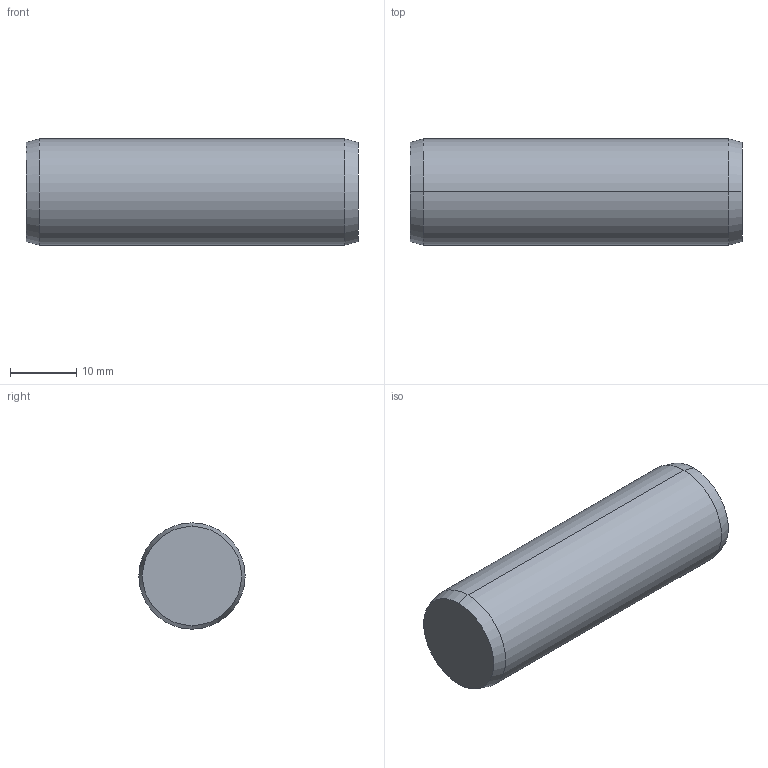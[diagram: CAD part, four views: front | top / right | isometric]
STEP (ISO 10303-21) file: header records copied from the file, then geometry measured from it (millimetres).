
FILE_DESCRIPTION (( 'STEP AP203' ), '1' );
FILE_NAME ('P1206.160-050.step', '2017-06-14T08:42:54', ( 'User' ), ( '' ), 'SwSTEP 2.0', 'SolidWorks 2009', '' );
FILE_SCHEMA (( 'CONFIG_CONTROL_DESIGN' ));
Length unit declared in the file: millimetre
Products named in the file (1): P1206.160-050
Bounding box: 50 x 16 x 16 mm (x, y, z)
Volume: 10000.4 mm3; surface area: 2863.4 mm2
Topology: 1 solids, 1 shells, 8 faces, 14 edges, 8 vertices
Faces by surface type: cone 4, cylinder 2, plane 2
Entity records: 271 total; most frequent: DIRECTION 40, CARTESIAN_POINT 31, ORIENTED_EDGE 28, AXIS2_PLACEMENT_3D 17, EDGE_CURVE 14, FACE_OUTER_BOUND 8, CIRCLE 8, VERTEX_POINT 8
